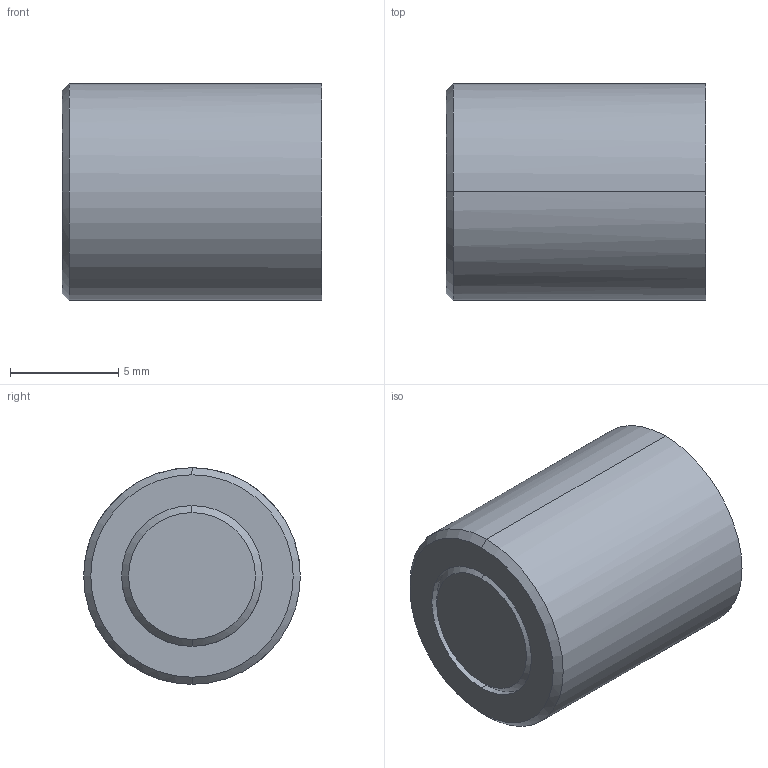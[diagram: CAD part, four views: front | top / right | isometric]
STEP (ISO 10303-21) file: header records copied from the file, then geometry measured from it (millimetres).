
FILE_DESCRIPTION(('CATIA V5 STEP Exchange'),'2;1');
FILE_NAME('C:\Users\Utente\Desktop\IO LAVORO\3D X SITO CF\X SITO\PLASTICA\D375\D375-10-A-DM-FA.stp','2021-03-26T14:46:23+00:00',('none'),('none'),'CATIA Version 5 Release 20 GA (IN-10)','CATIA V5 STEP AP203','none');
FILE_SCHEMA(('CONFIG_CONTROL_DESIGN'));
Length unit declared in the file: millimetre
Products named in the file (1): D375-10-A-DM-FA
Assembly tree (2 placements, depth 2):
  D375-10-A-DM-FA
    #58
    #6438
Bounding box: 12 x 10 x 10 mm (x, y, z)
Volume: 911.4 mm3; surface area: 1015.8 mm2
Topology: 2 solids, 2 shells, 216 faces, 594 edges, 408 vertices
Faces by surface type: plane 135, cylinder 77, cone 4
Entity records: 7475 total; most frequent: CARTESIAN_POINT 1994, ORIENTED_EDGE 1188, DIRECTION 958, EDGE_CURVE 594, VERTEX_POINT 408, VECTOR 396, LINE 396, AXIS2_PLACEMENT_3D 343
